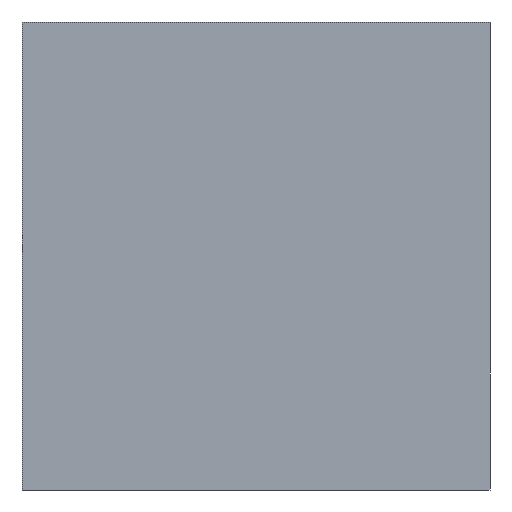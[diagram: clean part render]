
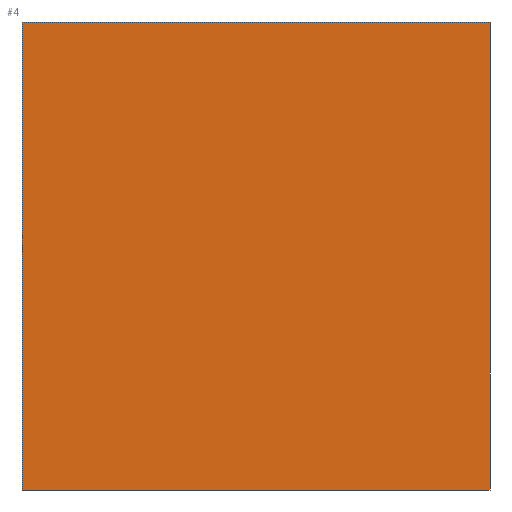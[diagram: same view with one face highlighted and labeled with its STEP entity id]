
A CAD part, front view. The second image highlights one B-rep face of the part: STEP entity #4.
In plain terms, the highlighted planar face has unit normal (0, -1, 0).
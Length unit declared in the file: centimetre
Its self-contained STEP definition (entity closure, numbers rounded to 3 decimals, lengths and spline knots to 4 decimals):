
#4 = ADVANCED_FACE ( 'NONE', ( #734 ), #8, .F. ) ;
#8 = PLANE ( 'NONE',  #89 ) ;
#12 = ORIENTED_EDGE ( 'NONE', *, *, #353, .F. ) ;
#35 = LINE ( 'NONE', #629, #592 ) ;
#89 = AXIS2_PLACEMENT_3D ( 'NONE', #947, #731, #664 ) ;
#136 = CARTESIAN_POINT ( 'NONE',  ( 0., 0., 1000. ) ) ;
#190 = CARTESIAN_POINT ( 'NONE',  ( 1000., 0., 1000. ) ) ;
#207 = DIRECTION ( 'NONE',  ( 0., 0., -1. ) ) ;
#275 = LINE ( 'NONE', #881, #893 ) ;
#282 = DIRECTION ( 'NONE',  ( 1., 0., 0. ) ) ;
#348 = VECTOR ( 'NONE', #720, 100. ) ;
#353 = EDGE_CURVE ( 'NONE', #421, #671, #438, .T. ) ;
#355 = CARTESIAN_POINT ( 'NONE',  ( 0., 0., 0. ) ) ;
#400 = VERTEX_POINT ( 'NONE', #355 ) ;
#421 = VERTEX_POINT ( 'NONE', #583 ) ;
#438 = LINE ( 'NONE', #655, #745 ) ;
#447 = EDGE_CURVE ( 'NONE', #671, #833, #275, .T. ) ;
#454 = ORIENTED_EDGE ( 'NONE', *, *, #647, .T. ) ;
#469 = EDGE_CURVE ( 'NONE', #421, #400, #796, .T. ) ;
#532 = ORIENTED_EDGE ( 'NONE', *, *, #469, .T. ) ;
#583 = CARTESIAN_POINT ( 'NONE',  ( 0., 0., 1000. ) ) ;
#592 = VECTOR ( 'NONE', #625, 100. ) ;
#625 = DIRECTION ( 'NONE',  ( 1., 0., 0. ) ) ;
#629 = CARTESIAN_POINT ( 'NONE',  ( 0., 0., 0. ) ) ;
#647 = EDGE_CURVE ( 'NONE', #400, #833, #35, .T. ) ;
#655 = CARTESIAN_POINT ( 'NONE',  ( 0., 0., 1000. ) ) ;
#664 = DIRECTION ( 'NONE',  ( 0., 0., 1. ) ) ;
#671 = VERTEX_POINT ( 'NONE', #190 ) ;
#720 = DIRECTION ( 'NONE',  ( 0., 0., -1. ) ) ;
#731 = DIRECTION ( 'NONE',  ( 0., 1., 0. ) ) ;
#734 = FACE_OUTER_BOUND ( 'NONE', #736, .T. ) ;
#736 = EDGE_LOOP ( 'NONE', ( #454, #894, #12, #532 ) ) ;
#745 = VECTOR ( 'NONE', #282, 100. ) ;
#788 = CARTESIAN_POINT ( 'NONE',  ( 1000., 0., 0. ) ) ;
#796 = LINE ( 'NONE', #136, #348 ) ;
#833 = VERTEX_POINT ( 'NONE', #788 ) ;
#881 = CARTESIAN_POINT ( 'NONE',  ( 1000., 0., 1000. ) ) ;
#893 = VECTOR ( 'NONE', #207, 100. ) ;
#894 = ORIENTED_EDGE ( 'NONE', *, *, #447, .F. ) ;
#947 = CARTESIAN_POINT ( 'NONE',  ( 0., 0., 1000. ) ) ;
